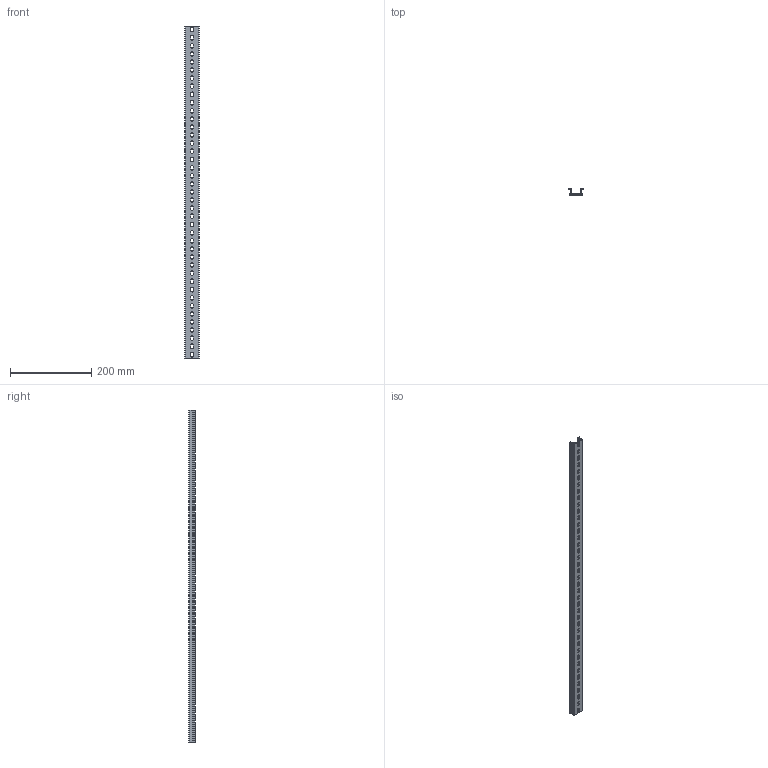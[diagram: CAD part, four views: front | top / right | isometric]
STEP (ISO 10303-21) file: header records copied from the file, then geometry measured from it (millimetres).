
FILE_DESCRIPTION(/* description */ (''),/* implementation_level */ '2;1');
FILE_NAME(/* name */ '22650-(TKB KD-41)HP 3D.stp',/* time_stamp */ '2024-12-05T14:23:55+09:00',/* author */ ('usercadg104'),/* organization */ (''),/* preprocessor_version */ 'ST-DEVELOPER v19.2',/* originating_system */ 'Autodesk Inventor 2023',/* authorisation */ '');
FILE_SCHEMA (('CONFIG_CONTROL_DESIGN'));
Length unit declared in the file: millimetre
Products named in the file (1): TKB KD-3(林)
Bounding box: 35 x 15 x 817 mm (x, y, z)
Volume: 95588.5 mm3; surface area: 110369.4 mm2
Topology: 1 solids, 1 shells, 204 faces, 606 edges, 404 vertices
Faces by surface type: plane 118, cylinder 86
Entity records: 7069 total; most frequent: CARTESIAN_POINT 1215, ORIENTED_EDGE 1212, DIRECTION 1188, EDGE_CURVE 606, LINE 434, VECTOR 434, VERTEX_POINT 404, AXIS2_PLACEMENT_3D 377
